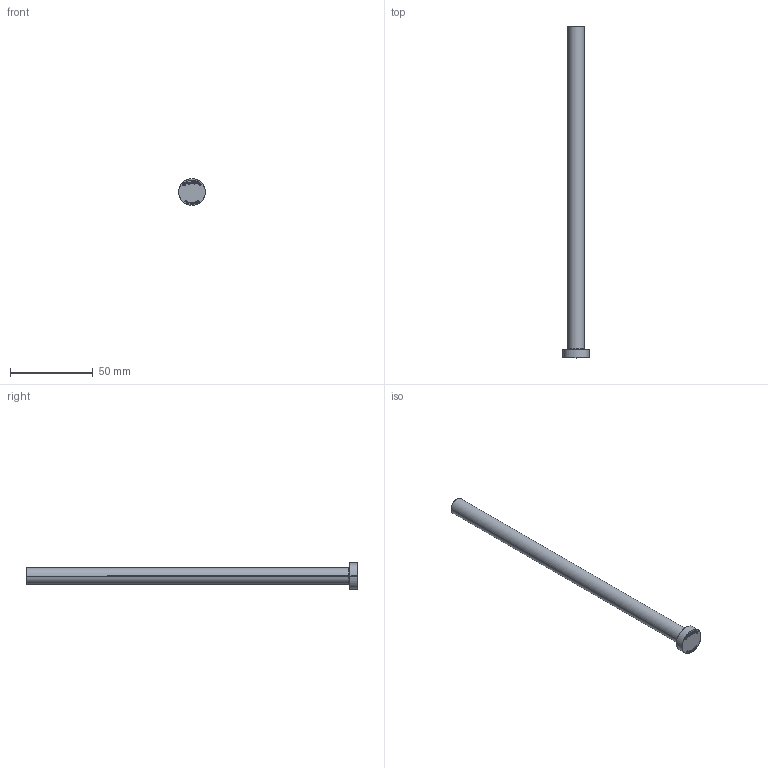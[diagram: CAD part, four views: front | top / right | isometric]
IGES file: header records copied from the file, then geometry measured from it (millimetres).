
Start section: SolidWorks IGES file using analytic representation for surfaces
Global section: file name: C:\Users\User\Downloads\Matripeça 31-08 tar\PB - PINO EXTRATOR TIPO _B_ (CATÁLOGO)\PB10,0\PB10,0200.IGS; native system: SolidWorks 2024; preprocessor: SolidWorks 2024; author: User; date: 260901.150349; units: millimetre
Bounding box: 16 x 200 x 16 mm (x, y, z)
Surface area: 6785.6 mm2 (no closed solid volume)
Topology: 0 solids, 0 shells, 394 faces, 3967 edges, 3967 vertices
Faces by surface type: bspline 380, revolution 14
